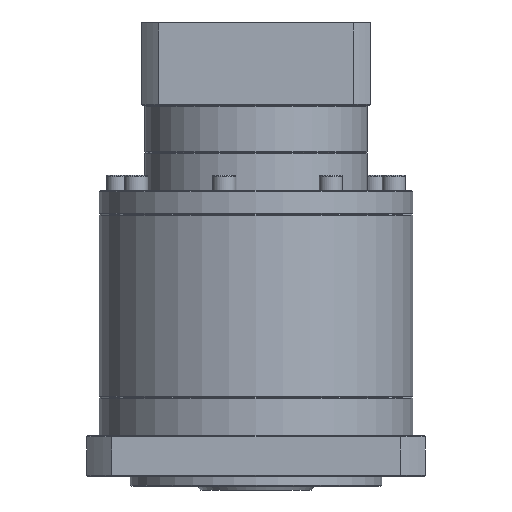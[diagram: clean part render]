
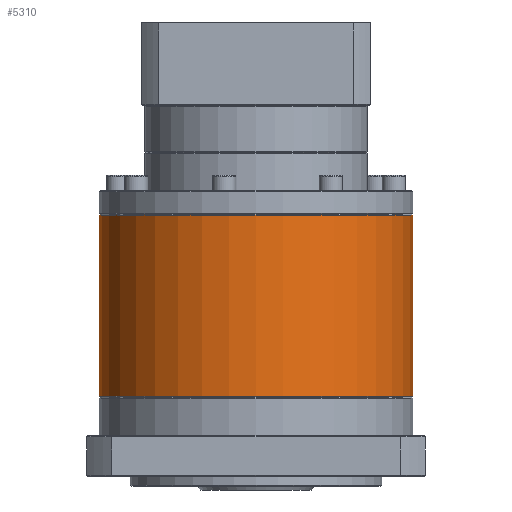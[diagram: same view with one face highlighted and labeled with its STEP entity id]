
A CAD part, front view. The second image highlights one B-rep face of the part: STEP entity #5310.
In plain terms, the highlighted cylindrical face has radius 81 mm (diameter 162 mm), a partial arc.
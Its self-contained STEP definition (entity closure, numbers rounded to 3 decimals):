
#3679 = CARTESIAN_POINT ( 'NONE',  ( -142.242, 105.463, -74.864 ) ) ;
#5077 = VERTEX_POINT ( 'NONE', #36943 ) ;
#5310 = ADVANCED_FACE ( 'NONE', ( #76034 ), #67874, .T. ) ;
#7881 = CARTESIAN_POINT ( 'NONE',  ( -223.242, 105.463, -74.864 ) ) ;
#16937 = LINE ( 'NONE', #7881, #128980 ) ;
#17481 = CARTESIAN_POINT ( 'NONE',  ( -61.242, 105.463, -74.864 ) ) ;
#19388 = VERTEX_POINT ( 'NONE', #67937 ) ;
#21466 = VERTEX_POINT ( 'NONE', #128693 ) ;
#22488 = EDGE_CURVE ( 'NONE', #5077, #21466, #16937, .T. ) ;
#24941 = CARTESIAN_POINT ( 'NONE',  ( -142.242, 105.463, -75.364 ) ) ;
#30185 = AXIS2_PLACEMENT_3D ( 'NONE', #65045, #54932, #128125 ) ;
#35519 = DIRECTION ( 'NONE',  ( 0., 0., -1. ) ) ;
#36943 = CARTESIAN_POINT ( 'NONE',  ( -223.242, 105.463, -75.364 ) ) ;
#44902 = LINE ( 'NONE', #17481, #117435 ) ;
#54932 = DIRECTION ( 'NONE',  ( 0., 0., 1. ) ) ;
#55054 = EDGE_CURVE ( 'NONE', #21466, #62331, #108379, .T. ) ;
#57045 = DIRECTION ( 'NONE',  ( 0., 0., -1. ) ) ;
#62331 = VERTEX_POINT ( 'NONE', #129843 ) ;
#65045 = CARTESIAN_POINT ( 'NONE',  ( -142.242, 105.463, -168.864 ) ) ;
#65917 = DIRECTION ( 'NONE',  ( -1., 0., 0. ) ) ;
#67596 = ORIENTED_EDGE ( 'NONE', *, *, #22488, .T. ) ;
#67874 = CYLINDRICAL_SURFACE ( 'NONE', #130773, 81. ) ;
#67937 = CARTESIAN_POINT ( 'NONE',  ( -61.242, 105.463, -75.364 ) ) ;
#69928 = DIRECTION ( 'NONE',  ( 0., 0., -1. ) ) ;
#76034 = FACE_OUTER_BOUND ( 'NONE', #102211, .T. ) ;
#91695 = ORIENTED_EDGE ( 'NONE', *, *, #55054, .T. ) ;
#102211 = EDGE_LOOP ( 'NONE', ( #106406, #134512, #67596, #91695 ) ) ;
#104861 = EDGE_CURVE ( 'NONE', #19388, #5077, #121907, .T. ) ;
#106406 = ORIENTED_EDGE ( 'NONE', *, *, #120110, .F. ) ;
#108181 = DIRECTION ( 'NONE',  ( -1., 0., 0. ) ) ;
#108379 = CIRCLE ( 'NONE', #30185, 81. ) ;
#117435 = VECTOR ( 'NONE', #69928, 1000. ) ;
#120110 = EDGE_CURVE ( 'NONE', #19388, #62331, #44902, .T. ) ;
#121907 = CIRCLE ( 'NONE', #132395, 81. ) ;
#128125 = DIRECTION ( 'NONE',  ( -1., 0., 0. ) ) ;
#128693 = CARTESIAN_POINT ( 'NONE',  ( -223.242, 105.463, -168.864 ) ) ;
#128980 = VECTOR ( 'NONE', #133573, 1000. ) ;
#129843 = CARTESIAN_POINT ( 'NONE',  ( -61.242, 105.463, -168.864 ) ) ;
#130773 = AXIS2_PLACEMENT_3D ( 'NONE', #3679, #57045, #108181 ) ;
#132395 = AXIS2_PLACEMENT_3D ( 'NONE', #24941, #35519, #65917 ) ;
#133573 = DIRECTION ( 'NONE',  ( 0., 0., -1. ) ) ;
#134512 = ORIENTED_EDGE ( 'NONE', *, *, #104861, .T. ) ;
